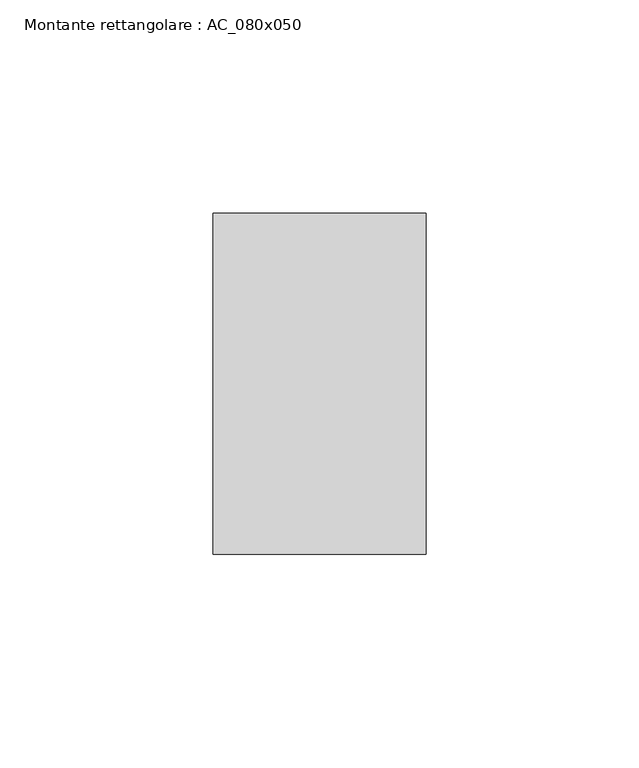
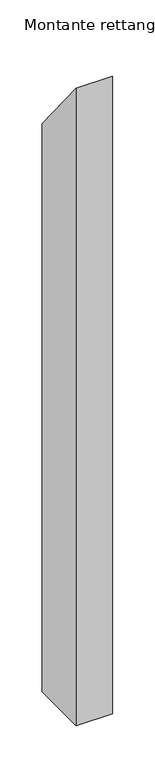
"""IFC4 building model written with IfcOpenShell, lengths in millimetres: member geometry, Montante rettangolare : AC_080x050."""

from ifc_helpers import new_model, si_unit, frame, origin, place, context, project, spatial, polyline, outline, extrude, source, transform, mapped, element, save


def montante_rettangolare_ac_080x050_cf15316b(model_context):
    return source(origin(), model_context, "Body", "SweptSolid", [
        extrude(outline(polyline([(-40.0, 49.876976), (40.0, -49.876976), (40.0, -869.0338322), (-40.0, -869.0338322), (-40.0, 49.876976)])), frame((-50.0, 0.0, 0.0), z_axis=(1.0, 0.0, 0.0), x_axis=(0.0, 1.0, 0.0)), (0.0, 0.0, 1.0), 50.0),
    ])


if __name__ == "__main__":
    model = new_model("IFC4")
    model_context = context("Model", 3, world=origin())
    ifc_project = project(units=[si_unit("LENGTHUNIT", "METRE", prefix="MILLI")], contexts=[model_context])
    site = spatial("IfcSite", under=ifc_project)
    building = spatial("IfcBuilding", under=site)
    placement = place(None, origin())
    montante_rettangolare_ac_080x050_shape = montante_rettangolare_ac_080x050_cf15316b(model_context)
    element("IfcMember", 1, ObjectType="Montante rettangolare : AC_080x050", at=placement, inside=building, context=model_context, shape_type="MappedRepresentation", body=[
        mapped(montante_rettangolare_ac_080x050_shape, transform((0.0, 0.0, 0.0), x_axis=(1.0, 0.0, 0.0), y_axis=(0.0, 1.0, 0.0), z_axis=(0.0, 0.0, 1.0))),
    ])
    save(model, "model.ifc")
